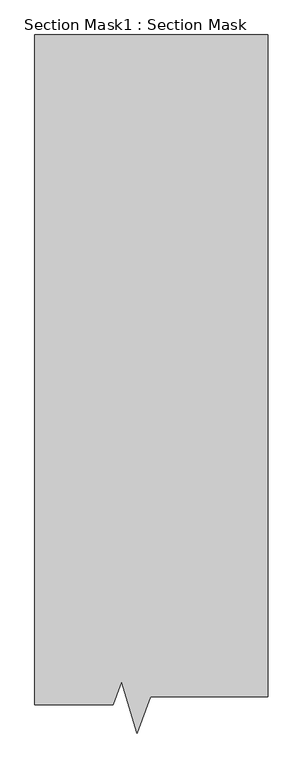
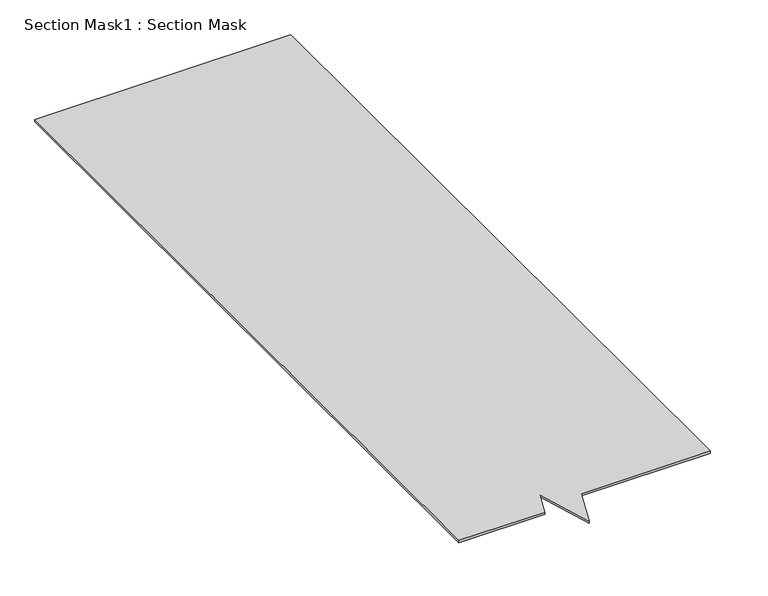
"""IFC4 building model written with IfcOpenShell, lengths in millimetres: proxy geometry, Section Mask1 : Section Mask."""

import ifcopenshell
import ifcopenshell.guid

model = None  # the IFC model being written
_history = None  # IfcOwnerHistory: only IFC2X3 demands one
_inside = {}  # id of a spatial element -> (the spatial element, [elements in it])
_under = {}  # id of a project, library or spatial element -> (it, [spatial elements below it])
_declared = {}  # id of a project -> (the project, [libraries it declares])
_typed = {}  # id of a type object -> (the type object, [elements of that type])
_made_of = {}  # id of a material, layer set ... -> (it, [elements and type objects made of it])


def new_model(schema):
    """Start an empty IFC model of exactly this schema.

    Asked for "IFC4X3", IfcOpenShell would pick the latest addendum, in which some entities
    have other attributes; the version numbers below select the first issue.
    IFC2X3 requires an IfcOwnerHistory on every rooted entity: one is made here for all.
    """
    global model, _history
    if schema == "IFC4X3":
        model = ifcopenshell.file(schema_version=(4, 3, 0, 0))
    else:
        model = ifcopenshell.file(schema=schema)
    _inside.clear()
    _under.clear()
    _declared.clear()
    _typed.clear()
    _made_of.clear()
    _history = None
    if model.schema == "IFC2X3":
        org = make("IfcOrganization", Name="unknown")
        user = make(
            "IfcPersonAndOrganization",
            ThePerson=make("IfcPerson", FamilyName="unknown"),
            TheOrganization=org,
        )
        app = make(
            "IfcApplication",
            ApplicationDeveloper=org,
            Version="unknown",
            ApplicationFullName="unknown",
            ApplicationIdentifier="unknown",
        )
        _history = make(
            "IfcOwnerHistory",
            OwningUser=user,
            OwningApplication=app,
            ChangeAction="ADDED",
            CreationDate=0,
        )
    return model


def make(cls, **values):
    """One entity of the class cls with the attributes given. An attribute that is None is left unset."""
    return model.create_entity(
        cls, **{name: value for name, value in values.items() if value is not None}
    )


def rooted(cls, **values):
    """An entity with a GlobalId (a new one), such as an element, a storey or a relation."""
    return make(cls, GlobalId=ifcopenshell.guid.new(), OwnerHistory=_history, **values)


def si_unit(unit_type, name, prefix=None):
    """IfcSIUnit, for example si_unit("LENGTHUNIT", "METRE", prefix="MILLI")."""
    return make("IfcSIUnit", UnitType=unit_type, Prefix=prefix, Name=name)


def assignment(units):
    """IfcUnitAssignment: the units of a project."""
    return None if units is None else make("IfcUnitAssignment", Units=units)


def point(xyz):
    """IfcCartesianPoint."""
    return None if xyz is None else make("IfcCartesianPoint", Coordinates=xyz)


def direction(xyz):
    """IfcDirection."""
    return None if xyz is None else make("IfcDirection", DirectionRatios=xyz)


def frame(location, z_axis=None, x_axis=None):
    """IfcAxis2Placement3D, a coordinate frame: its origin and axes. An axis left out is left unset."""
    return make(
        "IfcAxis2Placement3D",
        Location=point(location),
        Axis=direction(z_axis),
        RefDirection=direction(x_axis),
    )


def origin():
    """The frame at (0, 0, 0) with its axes left unset."""
    return frame((0.0, 0.0, 0.0))


def place(relative_to, where):
    """IfcLocalPlacement: puts the frame where relative to a parent placement (None: the world)."""
    return make(
        "IfcLocalPlacement", PlacementRelTo=relative_to, RelativePlacement=where
    )


def context(
    kind, dimensions, precision=None, world=None, true_north=None, identifier=None
):
    """IfcGeometricRepresentationContext, for example the 3D "Model" context."""
    return make(
        "IfcGeometricRepresentationContext",
        ContextIdentifier=identifier,
        ContextType=kind,
        CoordinateSpaceDimension=dimensions,
        Precision=precision,
        WorldCoordinateSystem=world,
        TrueNorth=true_north,
    )


def project(units=None, contexts=None):
    """IfcProject with its units and contexts."""
    return rooted(
        "IfcProject",
        Name="project",
        RepresentationContexts=contexts,
        UnitsInContext=assignment(units),
    )


def spatial(cls, under=None, at=None, **own):
    """A site, building, storey or space (cls), placed at a placement, below another one or the project."""
    s = rooted(cls, ObjectPlacement=at, **own)
    if under is not None:
        _under.setdefault(under.id(), (under, []))[1].append(s)
    return s


def polyline(points):
    """IfcPolyline through the points."""
    return make("IfcPolyline", Points=[point(p) for p in points])


def outline(outer, holes=None, kind="AREA"):
    """IfcArbitraryClosedProfileDef: a profile drawn as a closed curve; with holes, ...WithVoids."""
    if holes is None:
        return make("IfcArbitraryClosedProfileDef", ProfileType=kind, OuterCurve=outer)
    return make(
        "IfcArbitraryProfileDefWithVoids",
        ProfileType=kind,
        OuterCurve=outer,
        InnerCurves=holes,
    )


def extrude(swept, where, along, depth):
    """IfcExtrudedAreaSolid: the profile swept, set in the frame where, extruded along a direction by depth."""
    return make(
        "IfcExtrudedAreaSolid",
        SweptArea=swept,
        Position=where,
        ExtrudedDirection=direction(along),
        Depth=depth,
    )


def shape(context_of_items, identifier, shape_type, items):
    """IfcShapeRepresentation: the items that make up one representation, for example the "Body"."""
    return make(
        "IfcShapeRepresentation",
        ContextOfItems=context_of_items,
        RepresentationIdentifier=identifier,
        RepresentationType=shape_type,
        Items=items,
    )


def source(mapping_origin, context_of_items, identifier, shape_type, items):
    """IfcRepresentationMap: a shape defined once, which mapped items show again and again."""
    return make(
        "IfcRepresentationMap",
        MappingOrigin=mapping_origin,
        MappedRepresentation=shape(context_of_items, identifier, shape_type, items),
    )


def transform(
    local_origin,
    x_axis=None,
    y_axis=None,
    z_axis=None,
    scale=None,
    scale2=None,
    scale3=None,
    uniform=True,
):
    """IfcCartesianTransformationOperator3D, or its non-uniform kind. x_axis, y_axis, z_axis: its Axis1, 2, 3."""
    if uniform:
        return make(
            "IfcCartesianTransformationOperator3D",
            Axis1=direction(x_axis),
            Axis2=direction(y_axis),
            LocalOrigin=point(local_origin),
            Scale=scale,
            Axis3=direction(z_axis),
        )
    return make(
        "IfcCartesianTransformationOperator3DnonUniform",
        Axis1=direction(x_axis),
        Axis2=direction(y_axis),
        LocalOrigin=point(local_origin),
        Scale=scale,
        Axis3=direction(z_axis),
        Scale2=scale2,
        Scale3=scale3,
    )


def mapped(mapping_source, mapping_target):
    """IfcMappedItem: shows the shape of a source again, moved by a transform."""
    return make(
        "IfcMappedItem", MappingSource=mapping_source, MappingTarget=mapping_target
    )


def made_of(thing, what):
    """Note that an element or type object is made of a material, layer set ...; save() writes the relation."""
    if what is not None:
        _made_of.setdefault(what.id(), (what, []))[1].append(thing)
    return thing


def element(
    cls,
    number,
    at=None,
    inside=None,
    cuts=None,
    type_object=None,
    material=None,
    context=None,
    identifier="Body",
    shape_type=None,
    held_by="IfcProductDefinitionShape",
    body=None,
    shapes=None,
    **own,
):
    """One element of the class cls, such as IfcWall. Its Tag is "e" and its number.

    at: its placement. inside: the storey or other place that contains it. cuts: it is an
    opening in that element (IfcRelVoidsElement). A single representation is given by context,
    identifier, shape_type and body (its items); several are given by shapes. held_by: the class
    of the entity that holds the representations. save() writes the other relations.
    """
    e = rooted(cls, Tag="e%d" % number, ObjectPlacement=at, **own)
    if body is not None:
        shapes = [shape(context, identifier, shape_type, body)]
    if shapes is not None:
        e.Representation = make(held_by, Representations=shapes)
    if inside is not None:
        _inside.setdefault(inside.id(), (inside, []))[1].append(e)
    if cuts is not None:
        rooted(
            "IfcRelVoidsElement", RelatingBuildingElement=cuts, RelatedOpeningElement=e
        )
    if type_object is not None:
        _typed.setdefault(type_object.id(), (type_object, []))[1].append(e)
    return made_of(e, material)


def aggregate(whole, parts):
    """IfcRelAggregates: a whole, such as a stair, and the parts it consists of."""
    return rooted("IfcRelAggregates", RelatingObject=whole, RelatedObjects=parts)


def save(model, path):
    """Write the relations noted so far, then the file.

    IfcRelAggregates (storeys below a building ...), IfcRelContainedInSpatialStructure (elements
    in a storey), IfcRelDefinesByType, IfcRelAssociatesMaterial and IfcRelDeclares: one each for
    every whole, place, type object, material and project.
    """
    for whole, parts in _under.values():
        aggregate(whole, parts)
    for where, things in _inside.values():
        rooted(
            "IfcRelContainedInSpatialStructure",
            RelatedElements=things,
            RelatingStructure=where,
        )
    for kind, things in _typed.values():
        rooted("IfcRelDefinesByType", RelatedObjects=things, RelatingType=kind)
    for what, things in _made_of.values():
        rooted("IfcRelAssociatesMaterial", RelatedObjects=things, RelatingMaterial=what)
    for by, libraries in _declared.values():
        rooted("IfcRelDeclares", RelatingContext=by, RelatedDefinitions=libraries)
    model.write(path)


def section_mask1_section_mask_2c14d906(model_context):
    return source(origin(), model_context, "Body", "SweptSolid", [
        extrude(outline(polyline([(8124.664325, 631.273934), (7910.07559, 631.273934), (7910.07559, 2465.4614947), (8549.3973273, 2465.4614947), (8549.3973273, 652.1224056), (8227.2982256, 652.1224056), (8190.6813689, 552.9595639), (8147.6812645, 693.6065681), (8124.664325, 631.273934)])), frame((0.0, 0.0, 45.0273345), z_axis=(0.0, 0.0, 1.0), x_axis=(1.0, 0.0, 0.0)), (0.0, 0.0, 1.0), 5.6926241),
    ])


if __name__ == "__main__":
    model = new_model("IFC4")
    model_context = context("Model", 3, world=origin())
    ifc_project = project(units=[si_unit("LENGTHUNIT", "METRE", prefix="MILLI")], contexts=[model_context])
    site = spatial("IfcSite", under=ifc_project)
    building = spatial("IfcBuilding", under=site)
    placement = place(None, origin())
    section_mask1_section_mask_shape = section_mask1_section_mask_2c14d906(model_context)
    element("IfcBuildingElementProxy", 1, Name="Section Mask1 : Section Mask", ObjectType="Section Mask1 : Section Mask", at=placement, inside=building, context=model_context, shape_type="MappedRepresentation", body=[
        mapped(section_mask1_section_mask_shape, transform((0.0, 0.0, 0.0), x_axis=(1.0, 0.0, 0.0), y_axis=(0.0, 1.0, 0.0), z_axis=(0.0, 0.0, 1.0))),
    ])
    save(model, "model.ifc")
